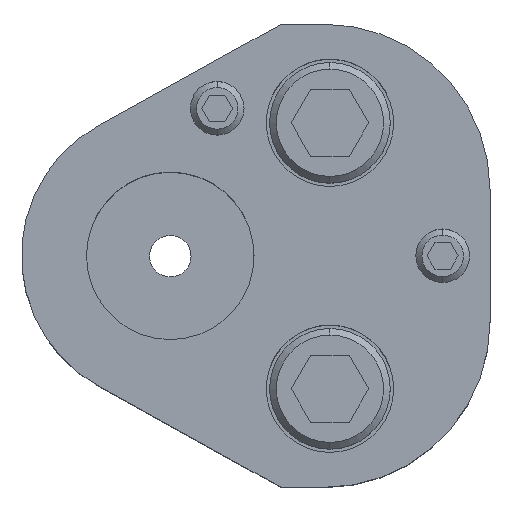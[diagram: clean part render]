
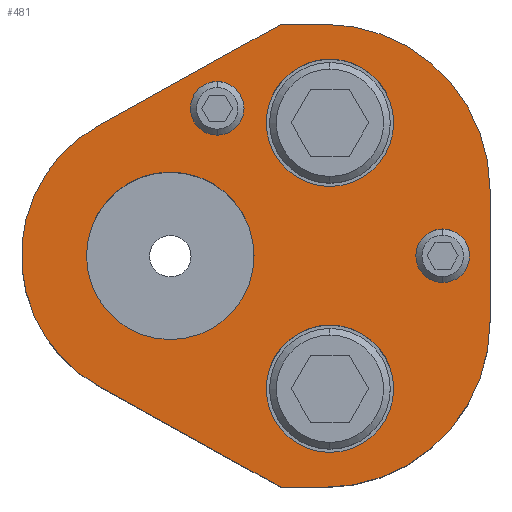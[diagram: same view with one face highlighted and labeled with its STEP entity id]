
A CAD part, top view. The second image highlights one B-rep face of the part: STEP entity #481.
In plain terms, the highlighted planar face has unit normal (0, 0, 1).
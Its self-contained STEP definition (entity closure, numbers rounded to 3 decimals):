
#213=FACE_BOUND('',#843,.T.);
#214=FACE_BOUND('',#844,.T.);
#215=FACE_BOUND('',#845,.T.);
#216=FACE_BOUND('',#846,.T.);
#217=FACE_BOUND('',#847,.T.);
#218=FACE_BOUND('',#848,.T.);
#303=CIRCLE('',#2712,24.7);
#305=CIRCLE('',#2716,24.7);
#308=CIRCLE('',#2722,22.2);
#309=CIRCLE('',#2724,4.);
#311=CIRCLE('',#2727,4.);
#313=CIRCLE('',#2730,4.);
#315=CIRCLE('',#2733,4.);
#325=CIRCLE('',#2748,9.5);
#326=CIRCLE('',#2749,9.5);
#327=CIRCLE('',#2750,9.5);
#328=CIRCLE('',#2751,9.5);
#329=CIRCLE('',#2752,12.5);
#330=CIRCLE('',#2753,12.5);
#481=ADVANCED_FACE('',(#213,#214,#215,#216,#217,#218),#595,.T.);
#595=PLANE('',#2754);
#843=EDGE_LOOP('',(#1257,#1258,#1259,#1260,#1261,#1262,#1263,#1264));
#844=EDGE_LOOP('',(#1265,#1266));
#845=EDGE_LOOP('',(#1267,#1268));
#846=EDGE_LOOP('',(#1269,#1270));
#847=EDGE_LOOP('',(#1271,#1272));
#848=EDGE_LOOP('',(#1273,#1274));
#1257=ORIENTED_EDGE('',*,*,#1996,.T.);
#1258=ORIENTED_EDGE('',*,*,#2000,.T.);
#1259=ORIENTED_EDGE('',*,*,#2003,.T.);
#1260=ORIENTED_EDGE('',*,*,#2006,.T.);
#1261=ORIENTED_EDGE('',*,*,#2009,.T.);
#1262=ORIENTED_EDGE('',*,*,#2012,.T.);
#1263=ORIENTED_EDGE('',*,*,#2015,.T.);
#1264=ORIENTED_EDGE('',*,*,#2018,.T.);
#1265=ORIENTED_EDGE('',*,*,#2043,.F.);
#1266=ORIENTED_EDGE('',*,*,#2044,.F.);
#1267=ORIENTED_EDGE('',*,*,#2045,.F.);
#1268=ORIENTED_EDGE('',*,*,#2046,.F.);
#1269=ORIENTED_EDGE('',*,*,#2029,.F.);
#1270=ORIENTED_EDGE('',*,*,#2025,.F.);
#1271=ORIENTED_EDGE('',*,*,#2023,.F.);
#1272=ORIENTED_EDGE('',*,*,#2019,.F.);
#1273=ORIENTED_EDGE('',*,*,#2047,.T.);
#1274=ORIENTED_EDGE('',*,*,#2048,.T.);
#1728=VERTEX_POINT('',#4024);
#1729=VERTEX_POINT('',#4026);
#1732=VERTEX_POINT('',#4033);
#1734=VERTEX_POINT('',#4039);
#1736=VERTEX_POINT('',#4045);
#1738=VERTEX_POINT('',#4051);
#1740=VERTEX_POINT('',#4057);
#1742=VERTEX_POINT('',#4063);
#1743=VERTEX_POINT('',#4071);
#1744=VERTEX_POINT('',#4072);
#1747=VERTEX_POINT('',#4083);
#1748=VERTEX_POINT('',#4084);
#1759=VERTEX_POINT('',#4119);
#1760=VERTEX_POINT('',#4120);
#1761=VERTEX_POINT('',#4123);
#1762=VERTEX_POINT('',#4124);
#1763=VERTEX_POINT('',#4127);
#1764=VERTEX_POINT('',#4128);
#1996=EDGE_CURVE('',#1729,#1728,#2294,.T.);
#2000=EDGE_CURVE('',#1728,#1732,#2298,.T.);
#2003=EDGE_CURVE('',#1732,#1734,#303,.T.);
#2006=EDGE_CURVE('',#1734,#1736,#2302,.T.);
#2009=EDGE_CURVE('',#1736,#1738,#305,.T.);
#2012=EDGE_CURVE('',#1738,#1740,#2306,.T.);
#2015=EDGE_CURVE('',#1740,#1742,#2309,.T.);
#2018=EDGE_CURVE('',#1742,#1729,#308,.T.);
#2019=EDGE_CURVE('',#1743,#1744,#309,.T.);
#2023=EDGE_CURVE('',#1744,#1743,#311,.T.);
#2025=EDGE_CURVE('',#1747,#1748,#313,.T.);
#2029=EDGE_CURVE('',#1748,#1747,#315,.T.);
#2043=EDGE_CURVE('',#1759,#1760,#325,.T.);
#2044=EDGE_CURVE('',#1760,#1759,#326,.T.);
#2045=EDGE_CURVE('',#1761,#1762,#327,.T.);
#2046=EDGE_CURVE('',#1762,#1761,#328,.T.);
#2047=EDGE_CURVE('',#1763,#1764,#329,.T.);
#2048=EDGE_CURVE('',#1764,#1763,#330,.T.);
#2294=LINE('',#4025,#2486);
#2298=LINE('',#4034,#2490);
#2302=LINE('',#4046,#2494);
#2306=LINE('',#4058,#2498);
#2309=LINE('',#4064,#2501);
#2486=VECTOR('',#3186,1.);
#2490=VECTOR('',#3192,1.);
#2494=VECTOR('',#3204,1.);
#2498=VECTOR('',#3216,1.);
#2501=VECTOR('',#3221,1.);
#2712=AXIS2_PLACEMENT_3D('',#4040,#3197,#3198);
#2716=AXIS2_PLACEMENT_3D('',#4052,#3209,#3210);
#2722=AXIS2_PLACEMENT_3D('',#4068,#3227,#3228);
#2724=AXIS2_PLACEMENT_3D('',#4070,#3231,#3232);
#2727=AXIS2_PLACEMENT_3D('',#4079,#3239,#3240);
#2730=AXIS2_PLACEMENT_3D('',#4082,#3245,#3246);
#2733=AXIS2_PLACEMENT_3D('',#4091,#3253,#3254);
#2748=AXIS2_PLACEMENT_3D('',#4118,#3287,#3288);
#2749=AXIS2_PLACEMENT_3D('',#4121,#3289,#3290);
#2750=AXIS2_PLACEMENT_3D('',#4122,#3291,#3292);
#2751=AXIS2_PLACEMENT_3D('',#4125,#3293,#3294);
#2752=AXIS2_PLACEMENT_3D('',#4126,#3295,#3296);
#2753=AXIS2_PLACEMENT_3D('',#4129,#3297,#3298);
#2754=AXIS2_PLACEMENT_3D('',#4130,#3299,#3300);
#3186=DIRECTION('',(0.875,-0.485,0.));
#3192=DIRECTION('',(1.,0.,0.));
#3197=DIRECTION('',(0.,0.,1.));
#3198=DIRECTION('',(-0.707,0.707,0.));
#3204=DIRECTION('',(0.,1.,0.));
#3209=DIRECTION('',(0.,0.,1.));
#3210=DIRECTION('',(-0.707,-0.707,0.));
#3216=DIRECTION('',(-1.,0.,0.));
#3221=DIRECTION('',(-0.875,-0.485,0.));
#3227=DIRECTION('',(0.,0.,1.));
#3228=DIRECTION('',(1.,0.,0.));
#3231=DIRECTION('',(0.,0.,1.));
#3232=DIRECTION('',(-1.,0.,0.));
#3239=DIRECTION('',(0.,0.,1.));
#3240=DIRECTION('',(1.,0.,0.));
#3245=DIRECTION('',(0.,0.,1.));
#3246=DIRECTION('',(-1.,0.,0.));
#3253=DIRECTION('',(0.,0.,1.));
#3254=DIRECTION('',(1.,0.,0.));
#3287=DIRECTION('',(0.,0.,1.));
#3288=DIRECTION('',(1.,0.,0.));
#3289=DIRECTION('',(0.,0.,1.));
#3290=DIRECTION('',(-1.,0.,0.));
#3291=DIRECTION('',(0.,0.,1.));
#3292=DIRECTION('',(1.,0.,0.));
#3293=DIRECTION('',(0.,0.,1.));
#3294=DIRECTION('',(-1.,0.,0.));
#3295=DIRECTION('',(0.,0.,-1.));
#3296=DIRECTION('',(-1.,0.,0.));
#3297=DIRECTION('',(0.,0.,-1.));
#3298=DIRECTION('',(1.,0.,0.));
#3299=DIRECTION('',(0.,0.,1.));
#3300=DIRECTION('',(-0.875,0.485,0.));
#4024=CARTESIAN_POINT('',(16.539,-34.55,37.));
#4025=CARTESIAN_POINT('',(16.539,-34.55,37.));
#4026=CARTESIAN_POINT('',(-10.763,-19.417,37.));
#4033=CARTESIAN_POINT('',(23.,-34.55,37.));
#4034=CARTESIAN_POINT('',(16.539,-34.55,37.));
#4039=CARTESIAN_POINT('',(47.7,-9.85,37.));
#4040=CARTESIAN_POINT('',(23.,-9.85,37.));
#4045=CARTESIAN_POINT('',(47.7,9.85,37.));
#4046=CARTESIAN_POINT('',(47.7,9.85,37.));
#4051=CARTESIAN_POINT('',(23.,34.55,37.));
#4052=CARTESIAN_POINT('',(23.,9.85,37.));
#4057=CARTESIAN_POINT('',(16.539,34.55,37.));
#4058=CARTESIAN_POINT('',(16.539,34.55,37.));
#4063=CARTESIAN_POINT('',(-10.763,19.417,37.));
#4064=CARTESIAN_POINT('',(16.539,34.55,37.));
#4068=CARTESIAN_POINT('',(0.,0.,37.));
#4070=CARTESIAN_POINT('',(7.,22.,37.));
#4071=CARTESIAN_POINT('',(7.,18.,37.));
#4072=CARTESIAN_POINT('',(7.,26.,37.));
#4079=CARTESIAN_POINT('',(7.,22.,37.));
#4082=CARTESIAN_POINT('',(40.64,0.,37.));
#4083=CARTESIAN_POINT('',(40.64,-4.,37.));
#4084=CARTESIAN_POINT('',(40.64,4.,37.));
#4091=CARTESIAN_POINT('',(40.64,0.,37.));
#4118=CARTESIAN_POINT('',(23.82,19.84,37.));
#4119=CARTESIAN_POINT('',(23.82,29.34,37.));
#4120=CARTESIAN_POINT('',(23.82,10.34,37.));
#4121=CARTESIAN_POINT('',(23.82,19.84,37.));
#4122=CARTESIAN_POINT('',(23.82,-19.84,37.));
#4123=CARTESIAN_POINT('',(23.82,-10.34,37.));
#4124=CARTESIAN_POINT('',(23.82,-29.34,37.));
#4125=CARTESIAN_POINT('',(23.82,-19.84,37.));
#4126=CARTESIAN_POINT('',(0.,0.,37.));
#4127=CARTESIAN_POINT('',(0.,12.5,37.));
#4128=CARTESIAN_POINT('',(0.,-12.5,37.));
#4129=CARTESIAN_POINT('',(0.,0.,37.));
#4130=CARTESIAN_POINT('',(-10.763,-19.417,37.));
